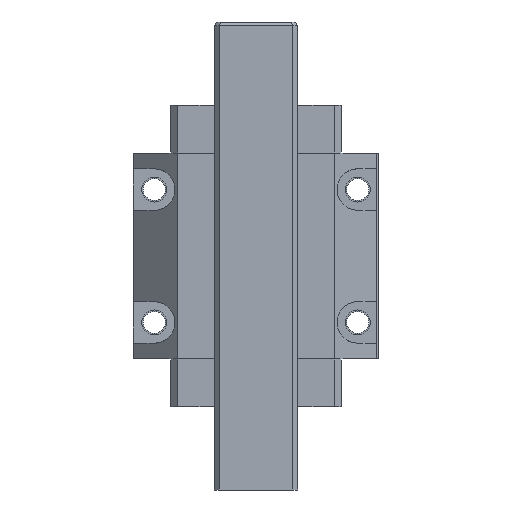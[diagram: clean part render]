
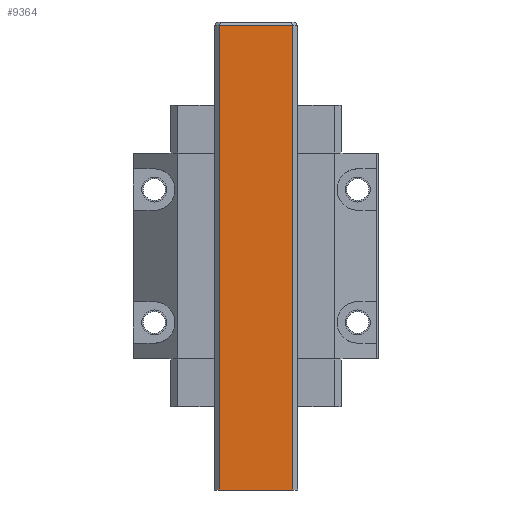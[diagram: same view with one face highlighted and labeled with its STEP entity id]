
A CAD part, front view. The second image highlights one B-rep face of the part: STEP entity #9364.
In plain terms, the highlighted planar face has unit normal (0, -1, 0).
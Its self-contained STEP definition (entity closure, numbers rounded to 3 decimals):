
#8325=DIRECTION('',(1.,0.,0.));
#8326=VECTOR('',#8325,17.6);
#8327=CARTESIAN_POINT('',(-8.8,-12.4,-56.35));
#8328=LINE('',#8327,#8326);
#8598=DIRECTION('',(1.,0.,0.));
#8599=VECTOR('',#8598,17.6);
#8600=CARTESIAN_POINT('',(-8.8,-12.4,55.484));
#8601=LINE('',#8600,#8599);
#8602=DIRECTION('',(0.,0.,1.));
#8603=VECTOR('',#8602,111.834);
#8604=CARTESIAN_POINT('',(-8.8,-12.4,-56.35));
#8605=LINE('',#8604,#8603);
#8610=DIRECTION('',(0.,0.,1.));
#8611=VECTOR('',#8610,111.834);
#8612=CARTESIAN_POINT('',(8.8,-12.4,-56.35));
#8613=LINE('',#8612,#8611);
#8796=CARTESIAN_POINT('',(-8.8,-12.4,-56.35));
#8797=VERTEX_POINT('',#8796);
#8798=CARTESIAN_POINT('',(8.8,-12.4,-56.35));
#8799=VERTEX_POINT('',#8798);
#8860=CARTESIAN_POINT('',(8.8,-12.4,55.484));
#8861=VERTEX_POINT('',#8860);
#8864=CARTESIAN_POINT('',(-8.8,-12.4,55.484));
#8865=VERTEX_POINT('',#8864);
#9352=CARTESIAN_POINT('',(-8.8,-12.4,-56.35));
#9353=DIRECTION('',(0.,-1.,0.));
#9354=DIRECTION('',(1.,0.,0.));
#9355=AXIS2_PLACEMENT_3D('',#9352,#9353,#9354);
#9356=PLANE('',#9355);
#9357=ORIENTED_EDGE('',*,*,#9343,.T.);
#9359=ORIENTED_EDGE('',*,*,#9358,.F.);
#9360=ORIENTED_EDGE('',*,*,#8945,.F.);
#9361=ORIENTED_EDGE('',*,*,#9318,.T.);
#9362=EDGE_LOOP('',(#9357,#9359,#9360,#9361));
#9363=FACE_OUTER_BOUND('',#9362,.F.);
#8945=EDGE_CURVE('',#8797,#8799,#8328,.T.);
#9318=EDGE_CURVE('',#8797,#8865,#8605,.T.);
#9343=EDGE_CURVE('',#8865,#8861,#8601,.T.);
#9358=EDGE_CURVE('',#8799,#8861,#8613,.T.);
#9364=ADVANCED_FACE('',(#9363),#9356,.T.);
